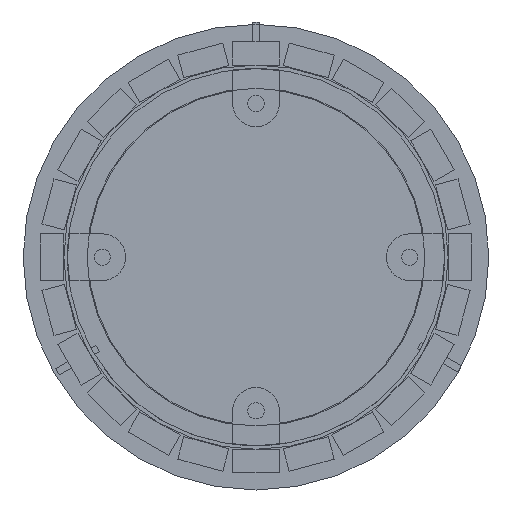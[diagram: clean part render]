
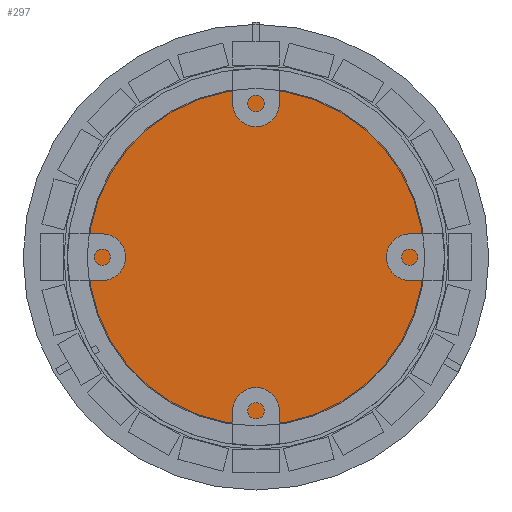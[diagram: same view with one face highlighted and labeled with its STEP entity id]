
A CAD part, front view. The second image highlights one B-rep face of the part: STEP entity #297.
In plain terms, the highlighted planar face has unit normal (0, -1, 0).
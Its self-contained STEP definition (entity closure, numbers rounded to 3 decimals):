
#182 = DIRECTION ( 'NONE',  ( 0., 0., -1. ) ) ;
#297 = ADVANCED_FACE ( 'NONE', ( #4392 ), #1117, .T. ) ;
#663 = CIRCLE ( 'NONE', #2949, 145. ) ;
#1117 = PLANE ( 'NONE',  #1171 ) ;
#1171 = AXIS2_PLACEMENT_3D ( 'NONE', #3534, #2715, #182 ) ;
#1501 = EDGE_CURVE ( 'NONE', #2419, #2419, #663, .T. ) ;
#1941 = CARTESIAN_POINT ( 'NONE',  ( 0., 3., 0. ) ) ;
#2419 = VERTEX_POINT ( 'NONE', #4544 ) ;
#2715 = DIRECTION ( 'NONE',  ( 0., -1., 0. ) ) ;
#2864 = DIRECTION ( 'NONE',  ( 0., -1., 0. ) ) ;
#2949 = AXIS2_PLACEMENT_3D ( 'NONE', #1941, #2864, #3632 ) ;
#3534 = CARTESIAN_POINT ( 'NONE',  ( 0., 3., 0. ) ) ;
#3632 = DIRECTION ( 'NONE',  ( 0., 0., -1. ) ) ;
#3962 = ORIENTED_EDGE ( 'NONE', *, *, #1501, .T. ) ;
#4142 = EDGE_LOOP ( 'NONE', ( #3962 ) ) ;
#4392 = FACE_OUTER_BOUND ( 'NONE', #4142, .T. ) ;
#4544 = CARTESIAN_POINT ( 'NONE',  ( 0., 3., -145. ) ) ;
